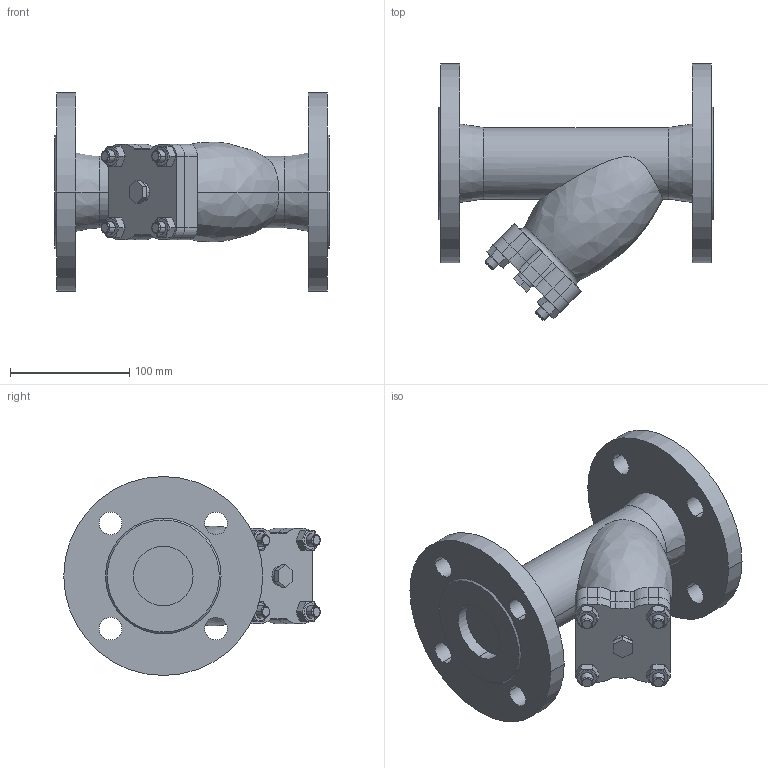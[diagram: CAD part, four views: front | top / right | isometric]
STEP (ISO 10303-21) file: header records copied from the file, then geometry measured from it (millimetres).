
FILE_DESCRIPTION((''),'2;1');
FILE_NAME('YS-16F_SB_ASM','2026-04-26T',('AMD'),(''),'PRO/ENGINEER BY PARAMETRIC TECHNOLOGY CORPORATION, 2008020','PRO/ENGINEER BY PARAMETRIC TECHNOLOGY CORPORATION, 2008020','');
FILE_SCHEMA(('CONFIG_CONTROL_DESIGN'));
Length unit declared in the file: millimetre
Products named in the file (7): YS-16F_KORPUS; YS-16F_KRISKA; YS-16F_PROKLADKA_2; YS-16F_PROBKA; YS-16F_SHPILKA; G-5915-M10; YS-16F_SB_ASM
Assembly tree (12 placements, depth 2):
  YS-16F_SB_ASM
    YS-16F_KORPUS
    YS-16F_KRISKA
    YS-16F_PROKLADKA_2
    YS-16F_PROBKA
    YS-16F_SHPILKA  x4
    G-5915-M10  x4
Bounding box: 230 x 215.2 x 167 mm (x, y, z)
Volume: 1751681.4 mm3; surface area: 203621.8 mm2
Topology: 12 solids, 20 shells, 244 faces, 600 edges, 387 vertices
Faces by surface type: cylinder 108, plane 76, cone 56, bspline 2, torus 2
Entity records: 5432 total; most frequent: CARTESIAN_POINT 1102, DIRECTION 971, ORIENTED_EDGE 796, EDGE_CURVE 408, AXIS2_PLACEMENT_3D 400, VERTEX_POINT 267, CIRCLE 219, EDGE_LOOP 203
